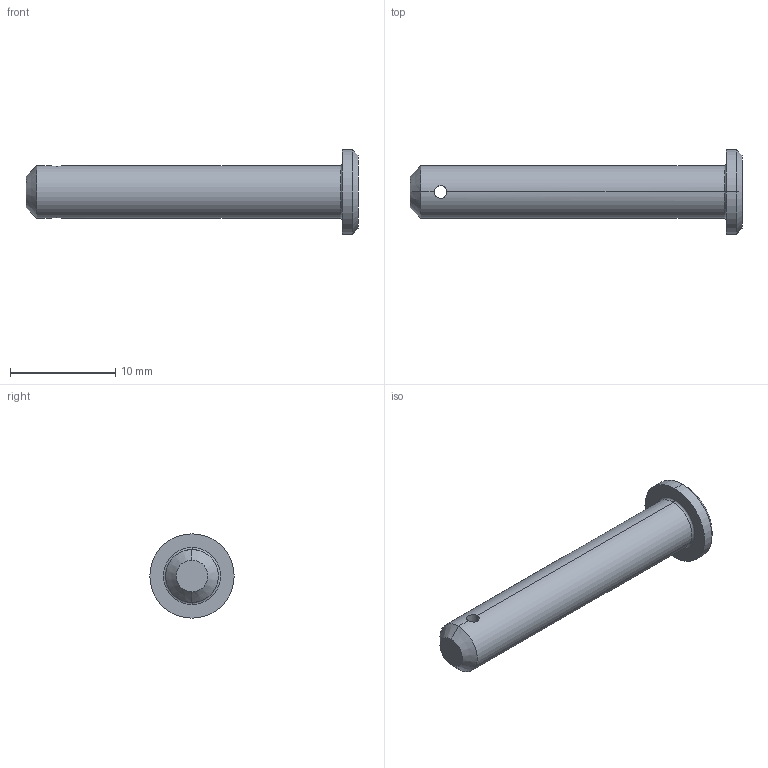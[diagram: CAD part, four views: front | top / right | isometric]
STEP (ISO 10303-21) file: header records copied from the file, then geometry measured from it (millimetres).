
FILE_DESCRIPTION (( 'STEP AP203' ), '1' );
FILE_NAME ('Wiberger-sms2360_5x30.step', '2012-10-09T08:58:00', ( 'Magnus' ), ( 'Wiberger' ), 'SwSTEP 2.0', 'SolidWorks 2011', '' );
FILE_SCHEMA (( 'CONFIG_CONTROL_DESIGN' ));
Length unit declared in the file: millimetre
Products named in the file (1): Wiberger-sms2360_5x30
Bounding box: 31.5 x 8 x 8 mm (x, y, z)
Volume: 649.2 mm3; surface area: 606.2 mm2
Topology: 1 solids, 1 shells, 15 faces, 32 edges, 18 vertices
Faces by surface type: cylinder 6, cone 4, plane 3, torus 2
Entity records: 511 total; most frequent: CARTESIAN_POINT 102, DIRECTION 76, ORIENTED_EDGE 64, EDGE_CURVE 32, AXIS2_PLACEMENT_3D 32, VERTEX_POINT 18, EDGE_LOOP 16, CIRCLE 16
